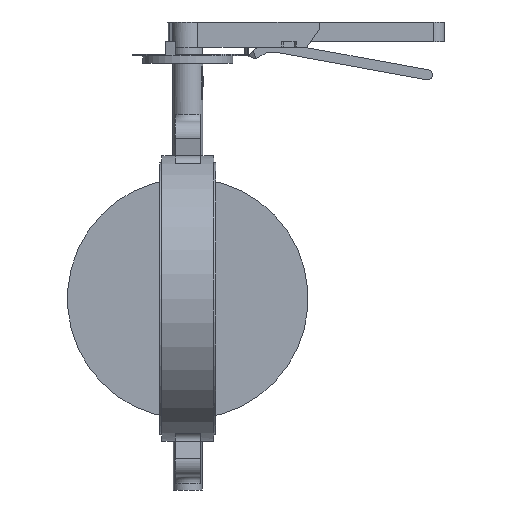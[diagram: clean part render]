
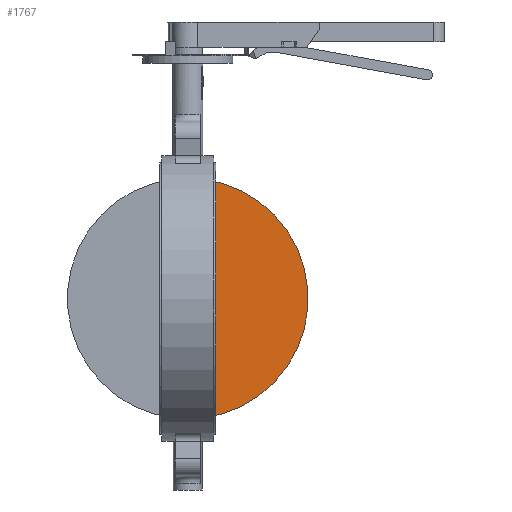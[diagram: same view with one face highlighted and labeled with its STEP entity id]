
A CAD part, front view. The second image highlights one B-rep face of the part: STEP entity #1767.
In plain terms, the highlighted planar face has unit normal (0, -1, 0).
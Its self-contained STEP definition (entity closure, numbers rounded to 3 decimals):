
#1767=ADVANCED_FACE('',(#3245),#3247,.T.);
#3245=FACE_BOUND('',#3246,.T.);
#3246=EDGE_LOOP('',(#4292,#4293));
#3247=PLANE('',#3248);
#3248=AXIS2_PLACEMENT_3D('',#3249,#3250,#3251);
#3249=CARTESIAN_POINT('',(0.,-2.5,0.));
#3250=DIRECTION('',(0.,-1.,0.));
#3251=DIRECTION('',(0.,0.,1.));
#4292=ORIENTED_EDGE('',*,*,#4805,.T.);
#4293=ORIENTED_EDGE('',*,*,#4813,.T.);
#4805=EDGE_CURVE('',#5661,#5658,#5662,.T.);
#4813=EDGE_CURVE('',#5658,#5661,#5675,.T.);
#5658=VERTEX_POINT('',#8595);
#5661=VERTEX_POINT('',#8625);
#5662=LINE('',#8626,#8627);
#5675=CIRCLE('',#8731,166.66);
#8595=CARTESIAN_POINT('',(19.843,-2.5,-165.474));
#8625=CARTESIAN_POINT('',(19.843,-2.5,165.474));
#8626=CARTESIAN_POINT('',(19.843,-2.5,165.474));
#8627=VECTOR('',#8628,1.);
#8628=DIRECTION('',(0.,0.,-1.));
#8731=AXIS2_PLACEMENT_3D('',#8732,#8733,#8734);
#8732=CARTESIAN_POINT('',(0.,-2.5,0.));
#8733=DIRECTION('',(0.,-1.,0.));
#8734=DIRECTION('',(0.119,0.,-0.993));
